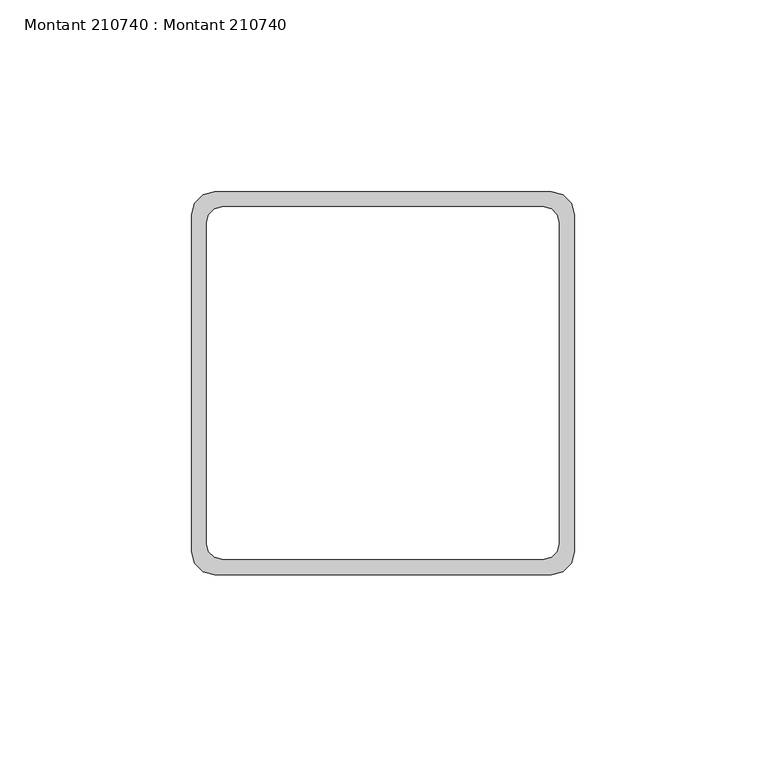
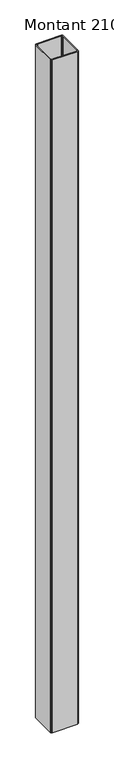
"""IFC4 building model written with IfcOpenShell, lengths in millimetres: beam geometry, Montant 210740 : Montant 210740."""

import ifcopenshell
import ifcopenshell.guid

model = None  # the IFC model being written
_history = None  # IfcOwnerHistory: only IFC2X3 demands one
_inside = {}  # id of a spatial element -> (the spatial element, [elements in it])
_under = {}  # id of a project, library or spatial element -> (it, [spatial elements below it])
_declared = {}  # id of a project -> (the project, [libraries it declares])
_typed = {}  # id of a type object -> (the type object, [elements of that type])
_made_of = {}  # id of a material, layer set ... -> (it, [elements and type objects made of it])


def new_model(schema):
    """Start an empty IFC model of exactly this schema.

    Asked for "IFC4X3", IfcOpenShell would pick the latest addendum, in which some entities
    have other attributes; the version numbers below select the first issue.
    IFC2X3 requires an IfcOwnerHistory on every rooted entity: one is made here for all.
    """
    global model, _history
    if schema == "IFC4X3":
        model = ifcopenshell.file(schema_version=(4, 3, 0, 0))
    else:
        model = ifcopenshell.file(schema=schema)
    _inside.clear()
    _under.clear()
    _declared.clear()
    _typed.clear()
    _made_of.clear()
    _history = None
    if model.schema == "IFC2X3":
        org = make("IfcOrganization", Name="unknown")
        user = make(
            "IfcPersonAndOrganization",
            ThePerson=make("IfcPerson", FamilyName="unknown"),
            TheOrganization=org,
        )
        app = make(
            "IfcApplication",
            ApplicationDeveloper=org,
            Version="unknown",
            ApplicationFullName="unknown",
            ApplicationIdentifier="unknown",
        )
        _history = make(
            "IfcOwnerHistory",
            OwningUser=user,
            OwningApplication=app,
            ChangeAction="ADDED",
            CreationDate=0,
        )
    return model


def make(cls, **values):
    """One entity of the class cls with the attributes given. An attribute that is None is left unset."""
    return model.create_entity(
        cls, **{name: value for name, value in values.items() if value is not None}
    )


def rooted(cls, **values):
    """An entity with a GlobalId (a new one), such as an element, a storey or a relation."""
    return make(cls, GlobalId=ifcopenshell.guid.new(), OwnerHistory=_history, **values)


def si_unit(unit_type, name, prefix=None):
    """IfcSIUnit, for example si_unit("LENGTHUNIT", "METRE", prefix="MILLI")."""
    return make("IfcSIUnit", UnitType=unit_type, Prefix=prefix, Name=name)


def assignment(units):
    """IfcUnitAssignment: the units of a project."""
    return None if units is None else make("IfcUnitAssignment", Units=units)


def point(xyz):
    """IfcCartesianPoint."""
    return None if xyz is None else make("IfcCartesianPoint", Coordinates=xyz)


def direction(xyz):
    """IfcDirection."""
    return None if xyz is None else make("IfcDirection", DirectionRatios=xyz)


def frame(location, z_axis=None, x_axis=None):
    """IfcAxis2Placement3D, a coordinate frame: its origin and axes. An axis left out is left unset."""
    return make(
        "IfcAxis2Placement3D",
        Location=point(location),
        Axis=direction(z_axis),
        RefDirection=direction(x_axis),
    )


def origin():
    """The frame at (0, 0, 0) with its axes left unset."""
    return frame((0.0, 0.0, 0.0))


def place(relative_to, where):
    """IfcLocalPlacement: puts the frame where relative to a parent placement (None: the world)."""
    return make(
        "IfcLocalPlacement", PlacementRelTo=relative_to, RelativePlacement=where
    )


def context(
    kind, dimensions, precision=None, world=None, true_north=None, identifier=None
):
    """IfcGeometricRepresentationContext, for example the 3D "Model" context."""
    return make(
        "IfcGeometricRepresentationContext",
        ContextIdentifier=identifier,
        ContextType=kind,
        CoordinateSpaceDimension=dimensions,
        Precision=precision,
        WorldCoordinateSystem=world,
        TrueNorth=true_north,
    )


def project(units=None, contexts=None):
    """IfcProject with its units and contexts."""
    return rooted(
        "IfcProject",
        Name="project",
        RepresentationContexts=contexts,
        UnitsInContext=assignment(units),
    )


def spatial(cls, under=None, at=None, **own):
    """A site, building, storey or space (cls), placed at a placement, below another one or the project."""
    s = rooted(cls, ObjectPlacement=at, **own)
    if under is not None:
        _under.setdefault(under.id(), (under, []))[1].append(s)
    return s


def polyline(points):
    """IfcPolyline through the points."""
    return make("IfcPolyline", Points=[point(p) for p in points])


def outline(outer, holes=None, kind="AREA"):
    """IfcArbitraryClosedProfileDef: a profile drawn as a closed curve; with holes, ...WithVoids."""
    if holes is None:
        return make("IfcArbitraryClosedProfileDef", ProfileType=kind, OuterCurve=outer)
    return make(
        "IfcArbitraryProfileDefWithVoids",
        ProfileType=kind,
        OuterCurve=outer,
        InnerCurves=holes,
    )


def extrude(swept, where, along, depth):
    """IfcExtrudedAreaSolid: the profile swept, set in the frame where, extruded along a direction by depth."""
    return make(
        "IfcExtrudedAreaSolid",
        SweptArea=swept,
        Position=where,
        ExtrudedDirection=direction(along),
        Depth=depth,
    )


def shape(context_of_items, identifier, shape_type, items):
    """IfcShapeRepresentation: the items that make up one representation, for example the "Body"."""
    return make(
        "IfcShapeRepresentation",
        ContextOfItems=context_of_items,
        RepresentationIdentifier=identifier,
        RepresentationType=shape_type,
        Items=items,
    )


def source(mapping_origin, context_of_items, identifier, shape_type, items):
    """IfcRepresentationMap: a shape defined once, which mapped items show again and again."""
    return make(
        "IfcRepresentationMap",
        MappingOrigin=mapping_origin,
        MappedRepresentation=shape(context_of_items, identifier, shape_type, items),
    )


def transform(
    local_origin,
    x_axis=None,
    y_axis=None,
    z_axis=None,
    scale=None,
    scale2=None,
    scale3=None,
    uniform=True,
):
    """IfcCartesianTransformationOperator3D, or its non-uniform kind. x_axis, y_axis, z_axis: its Axis1, 2, 3."""
    if uniform:
        return make(
            "IfcCartesianTransformationOperator3D",
            Axis1=direction(x_axis),
            Axis2=direction(y_axis),
            LocalOrigin=point(local_origin),
            Scale=scale,
            Axis3=direction(z_axis),
        )
    return make(
        "IfcCartesianTransformationOperator3DnonUniform",
        Axis1=direction(x_axis),
        Axis2=direction(y_axis),
        LocalOrigin=point(local_origin),
        Scale=scale,
        Axis3=direction(z_axis),
        Scale2=scale2,
        Scale3=scale3,
    )


def mapped(mapping_source, mapping_target):
    """IfcMappedItem: shows the shape of a source again, moved by a transform."""
    return make(
        "IfcMappedItem", MappingSource=mapping_source, MappingTarget=mapping_target
    )


def made_of(thing, what):
    """Note that an element or type object is made of a material, layer set ...; save() writes the relation."""
    if what is not None:
        _made_of.setdefault(what.id(), (what, []))[1].append(thing)
    return thing


def element(
    cls,
    number,
    at=None,
    inside=None,
    cuts=None,
    type_object=None,
    material=None,
    context=None,
    identifier="Body",
    shape_type=None,
    held_by="IfcProductDefinitionShape",
    body=None,
    shapes=None,
    **own,
):
    """One element of the class cls, such as IfcWall. Its Tag is "e" and its number.

    at: its placement. inside: the storey or other place that contains it. cuts: it is an
    opening in that element (IfcRelVoidsElement). A single representation is given by context,
    identifier, shape_type and body (its items); several are given by shapes. held_by: the class
    of the entity that holds the representations. save() writes the other relations.
    """
    e = rooted(cls, Tag="e%d" % number, ObjectPlacement=at, **own)
    if body is not None:
        shapes = [shape(context, identifier, shape_type, body)]
    if shapes is not None:
        e.Representation = make(held_by, Representations=shapes)
    if inside is not None:
        _inside.setdefault(inside.id(), (inside, []))[1].append(e)
    if cuts is not None:
        rooted(
            "IfcRelVoidsElement", RelatingBuildingElement=cuts, RelatedOpeningElement=e
        )
    if type_object is not None:
        _typed.setdefault(type_object.id(), (type_object, []))[1].append(e)
    return made_of(e, material)


def aggregate(whole, parts):
    """IfcRelAggregates: a whole, such as a stair, and the parts it consists of."""
    return rooted("IfcRelAggregates", RelatingObject=whole, RelatedObjects=parts)


def save(model, path):
    """Write the relations noted so far, then the file.

    IfcRelAggregates (storeys below a building ...), IfcRelContainedInSpatialStructure (elements
    in a storey), IfcRelDefinesByType, IfcRelAssociatesMaterial and IfcRelDeclares: one each for
    every whole, place, type object, material and project.
    """
    for whole, parts in _under.values():
        aggregate(whole, parts)
    for where, things in _inside.values():
        rooted(
            "IfcRelContainedInSpatialStructure",
            RelatedElements=things,
            RelatingStructure=where,
        )
    for kind, things in _typed.values():
        rooted("IfcRelDefinesByType", RelatedObjects=things, RelatingType=kind)
    for what, things in _made_of.values():
        rooted("IfcRelAssociatesMaterial", RelatedObjects=things, RelatingMaterial=what)
    for by, libraries in _declared.values():
        rooted("IfcRelDeclares", RelatingContext=by, RelatedDefinitions=libraries)
    model.write(path)


def montant_210740_montant_210740_54af5d84(model_context):
    return source(origin(), model_context, "Body", "SweptSolid", [
        extrude(outline(polyline([(425.9999999, -23519.5), (422.9999999, -23518.6961524), (420.8038474, -23516.5), (419.9999999, -23513.5), (419.9999999, -23425.5), (420.8038474, -23422.5), (422.9999999, -23420.3038476), (425.9999999, -23419.5), (513.9999999, -23419.5), (516.9999999, -23420.3038476), (519.1961523, -23422.5), (519.9999999, -23425.5), (519.9999999, -23513.5), (519.1961523, -23516.5), (516.9999999, -23518.6961524), (513.9999999, -23519.5), (425.9999999, -23519.5)]), holes=[polyline([(511.9999999, -23515.5), (513.9999999, -23514.9641016), (515.4641015, -23513.5), (515.9999999, -23511.5), (515.9999999, -23427.5), (515.4641015, -23425.5), (513.9999999, -23424.0358984), (511.9999999, -23423.5), (427.9999999, -23423.5), (425.9999999, -23424.0358984), (424.5358983, -23425.5), (423.9999999, -23427.5), (423.9999999, -23511.5), (424.5358983, -23513.5), (425.9999999, -23514.9641016), (427.9999999, -23515.5), (511.9999999, -23515.5)])]), frame((0.0, 0.0, 8550.0), z_axis=(0.0, 0.0, 1.0), x_axis=(1.0, 0.0, 0.0)), (0.0, 0.0, 1.0), 2530.0),
    ])


if __name__ == "__main__":
    model = new_model("IFC4")
    model_context = context("Model", 3, world=origin())
    ifc_project = project(units=[si_unit("LENGTHUNIT", "METRE", prefix="MILLI")], contexts=[model_context])
    site = spatial("IfcSite", under=ifc_project)
    building = spatial("IfcBuilding", under=site)
    placement = place(None, origin())
    montant_210740_montant_210740_shape = montant_210740_montant_210740_54af5d84(model_context)
    element("IfcBeam", 1, ObjectType="Montant 210740 : Montant 210740", at=placement, inside=building, context=model_context, shape_type="MappedRepresentation", body=[
        mapped(montant_210740_montant_210740_shape, transform((0.0, 0.0, 0.0), x_axis=(1.0, 0.0, 0.0), y_axis=(0.0, 1.0, 0.0), z_axis=(0.0, 0.0, 1.0))),
    ])
    save(model, "model.ifc")
